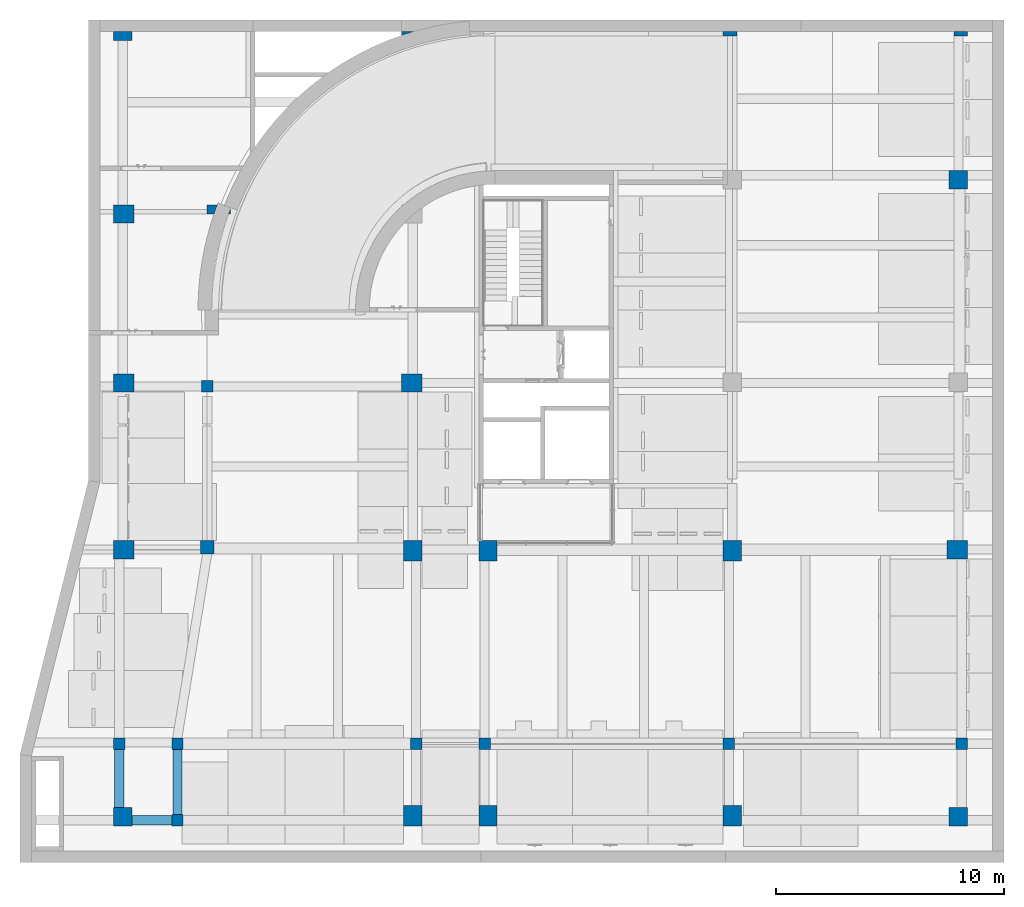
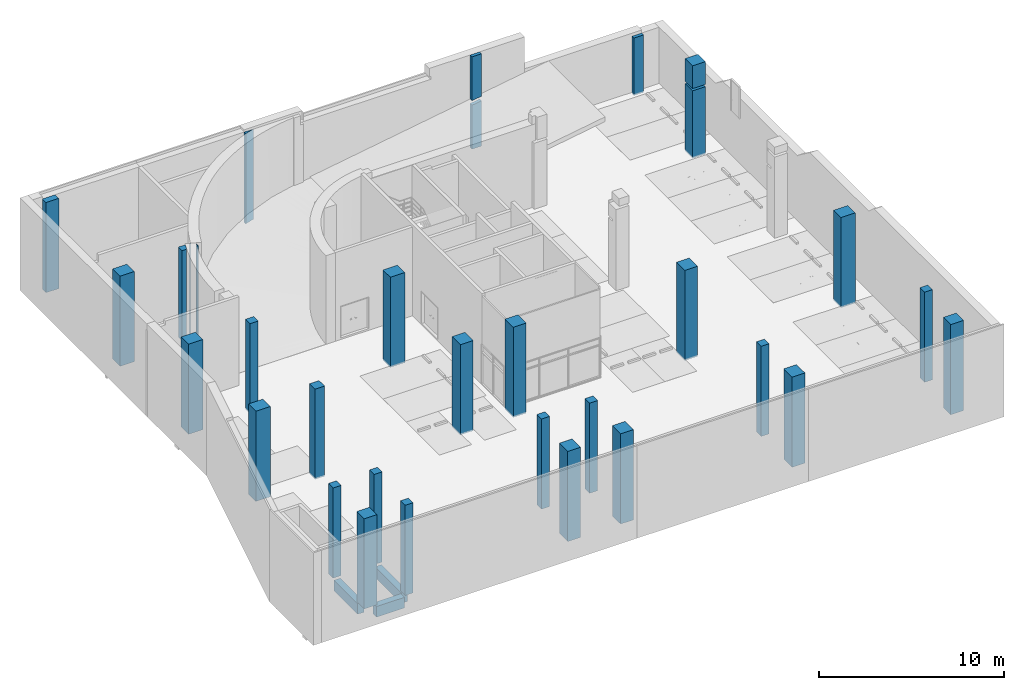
# One storey, part 1 of 29: 28 columns, 3 beams.
"""IFC2X3 building model written with IfcOpenShell, lengths in millimetres."""

from ifc_helpers import new_model, entity, si_unit, converted_unit, derived_unit, direction, frame, frame_2d, origin, origin_2d_with_axis, place, context, subcontext, project, spatial, polyline, circle_curve, parameter, trimmed, segment, composite_curve, rectangle, outline, extrude, faceted_brep, source, transform, mapped, material, material_list, type_object, type_shapes, element, save


model = new_model("IFC2X3")

# Units and contexts
model_context = context("Model", 3, precision=0.01, world=origin(), true_north=direction((6.123031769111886e-17, 1.0)))
body_context = subcontext(model_context, "Body", "Model", "MODEL_VIEW")
ifc_project = project(units=[si_unit("LENGTHUNIT", "METRE", prefix="MILLI"), si_unit("AREAUNIT", "SQUARE_METRE"), si_unit("VOLUMEUNIT", "CUBIC_METRE"), converted_unit("PLANEANGLEUNIT", "DEGREE", entity("IfcRatioMeasure", 0.017453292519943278), si_unit("PLANEANGLEUNIT", "RADIAN"), dimensions=[0, 0, 0, 0, 0, 0, 0]), si_unit("MASSUNIT", "GRAM", prefix="KILO"), derived_unit("MASSDENSITYUNIT", [(si_unit("MASSUNIT", "GRAM", prefix="KILO"), 1), (si_unit("LENGTHUNIT", "METRE"), -3)]), derived_unit("MOMENTOFINERTIAUNIT", [(si_unit("LENGTHUNIT", "METRE"), 4)]), si_unit("TIMEUNIT", "SECOND"), si_unit("FREQUENCYUNIT", "HERTZ"), si_unit("THERMODYNAMICTEMPERATUREUNIT", "DEGREE_CELSIUS"), derived_unit("THERMALTRANSMITTANCEUNIT", [(si_unit("MASSUNIT", "GRAM", prefix="KILO"), 1), (si_unit("THERMODYNAMICTEMPERATUREUNIT", "KELVIN"), -1), (si_unit("TIMEUNIT", "SECOND"), -3)]), derived_unit("VOLUMETRICFLOWRATEUNIT", [(si_unit("LENGTHUNIT", "METRE"), 3), (si_unit("TIMEUNIT", "SECOND"), -1)]), derived_unit("MASSFLOWRATEUNIT", [(si_unit("MASSUNIT", "GRAM", prefix="KILO"), 1), (si_unit("TIMEUNIT", "SECOND"), -1)]), derived_unit("ROTATIONALFREQUENCYUNIT", [(si_unit("TIMEUNIT", "SECOND"), -1)]), si_unit("ELECTRICCURRENTUNIT", "AMPERE"), si_unit("ELECTRICVOLTAGEUNIT", "VOLT"), si_unit("POWERUNIT", "WATT"), si_unit("FORCEUNIT", "NEWTON", prefix="KILO"), si_unit("ILLUMINANCEUNIT", "LUX"), si_unit("LUMINOUSFLUXUNIT", "LUMEN"), si_unit("LUMINOUSINTENSITYUNIT", "CANDELA"), derived_unit("USERDEFINED", [(si_unit("MASSUNIT", "GRAM", prefix="KILO"), -1), (si_unit("LENGTHUNIT", "METRE"), -2), (si_unit("TIMEUNIT", "SECOND"), 3), (si_unit("LUMINOUSFLUXUNIT", "LUMEN"), 1)]), derived_unit("SOUNDPOWERUNIT", [(si_unit("MASSUNIT", "GRAM", prefix="KILO"), 1), (si_unit("LENGTHUNIT", "METRE"), 2), (si_unit("TIMEUNIT", "SECOND"), -3)]), derived_unit("SOUNDPRESSUREUNIT", [(si_unit("MASSUNIT", "GRAM", prefix="KILO"), 1), (si_unit("LENGTHUNIT", "METRE"), -1), (si_unit("TIMEUNIT", "SECOND"), -2)]), derived_unit("LINEARVELOCITYUNIT", [(si_unit("LENGTHUNIT", "METRE"), 1), (si_unit("TIMEUNIT", "SECOND"), -1)]), si_unit("PRESSUREUNIT", "PASCAL"), derived_unit("USERDEFINED", [(si_unit("LENGTHUNIT", "METRE"), -2), (si_unit("MASSUNIT", "GRAM", prefix="KILO"), 1), (si_unit("TIMEUNIT", "SECOND"), -2)]), derived_unit("LINEARFORCEUNIT", [(si_unit("MASSUNIT", "GRAM", prefix="KILO"), 1), (si_unit("LENGTHUNIT", "METRE"), 1), (si_unit("TIMEUNIT", "SECOND"), -2), (si_unit("LENGTHUNIT", "METRE"), -1)]), derived_unit("PLANARFORCEUNIT", [(si_unit("MASSUNIT", "GRAM", prefix="KILO"), 1), (si_unit("LENGTHUNIT", "METRE"), 1), (si_unit("TIMEUNIT", "SECOND"), -2), (si_unit("LENGTHUNIT", "METRE"), -2)])], contexts=[model_context])

# Site, building, storey
site_placement = place(None, frame((-14167.972527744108, -657.2125860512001, 0.0)))
site = spatial("IfcSite", under=ifc_project, at=site_placement, Name="Default", CompositionType="ELEMENT")
building_placement = place(site_placement, origin())
building = spatial("IfcBuilding", under=site, at=building_placement, Name="Sample Building", CompositionType="ELEMENT")
storey_placement = place(building_placement, frame((0.0, 0.0, -6100.0)))
storey = spatial("IfcBuildingStorey", under=building, at=storey_placement, Name="지하1층", CompositionType="ELEMENT", Elevation=-6099.999999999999)

# Columns
ifc_material = material(Name="KBIMS-콘크리트")
column_type_1 = type_object("IfcColumnType", Name="CL111-철근콘크리트구조 기둥 (각형)1:CL111-철근콘크리트구조 기둥 (각형)_800x800_B2-7C3", PredefinedType="COLUMN", material=ifc_material)
shared_shape_1 = source(origin(), body_context, "Body", "SweptSolid", [
    extrude(rectangle(XDim=799.9999999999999, YDim=800.0, at=frame_2d((-5.684341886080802e-14, 0.0), x_axis=(1.0, 0.0))), frame((14467.955105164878, 957.2121951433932, -6100.0), z_axis=(0.0, 0.0, 1.0), x_axis=(0.0, -1.0, 0.0)), (0.0, 0.0, 1.0), 5949.999999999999),
])
type_shapes(column_type_1, [shared_shape_1])
column_1_placement = place(storey_placement, frame((0.0, 0.0, 6100.0)))
element("IfcColumn", 1, at=column_1_placement, inside=storey, type_object=column_type_1, material=ifc_material, Name="CL111-철근콘크리트구조 기둥 (각형)1:CL111-철근콘크리트구조 기둥 (각형)_800x800_B2-7C3", ObjectType="CL111-철근콘크리트구조 기둥 (각형)1:CL111-철근콘크리트구조 기둥 (각형)_800x800_B2-7C3", context=body_context, shape_type="MappedRepresentation", body=[
    mapped(shared_shape_1, transform((0.0, 0.0, 0.0), scale=1.0)),
])
column_type_2 = type_object("IfcColumnType", Name="CL111-철근콘크리트구조 기둥 (각형)1:CL111-철근콘크리트구조 기둥 (각형)_500x500_B2-B1C11", PredefinedType="COLUMN", material=ifc_material)
shared_shape_2 = source(origin(), body_context, "Body", "SweptSolid", [
    extrude(rectangle(XDim=500.0, YDim=499.999999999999, at=frame_2d((-4.263256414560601e-14, 0.0), x_axis=(1.0, 0.0))), frame((16867.946448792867, 807.2126041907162, -6100.0), z_axis=(0.0, 0.0, 1.0), x_axis=(0.0, -1.0, 0.0)), (0.0, 0.0, 1.0), 5949.999999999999),
])
type_shapes(column_type_2, [shared_shape_2])
column_2_placement = place(storey_placement, frame((0.0, 0.0, 6100.0)))
element("IfcColumn", 2, at=column_2_placement, inside=storey, type_object=column_type_2, material=ifc_material, Name="CL111-철근콘크리트구조 기둥 (각형)1:CL111-철근콘크리트구조 기둥 (각형)_500x500_B2-B1C11", ObjectType="CL111-철근콘크리트구조 기둥 (각형)1:CL111-철근콘크리트구조 기둥 (각형)_500x500_B2-B1C11", context=body_context, shape_type="MappedRepresentation", body=[
    mapped(shared_shape_2, transform((0.0, 0.0, 0.0), scale=1.0)),
])
column_type_3 = type_object("IfcColumnType", Name="CL111-철근콘크리트구조 기둥 (각형)1:CL111-철근콘크리트구조 기둥 (각형)_800x900_B2-1C2", PredefinedType="COLUMN", material=ifc_material)
shared_shape_3 = source(origin(), body_context, "Body", "SweptSolid", [
    extrude(rectangle(XDim=900.0, YDim=800.0, at=frame_2d((-8.526512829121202e-14, 0.0), x_axis=(1.0, 0.0))), frame((27167.955141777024, 1007.2121822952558, -6100.0), z_axis=(0.0, 0.0, 1.0), x_axis=(0.0, -1.0, 0.0)), (0.0, 0.0, 1.0), 5949.999999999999),
])
type_shapes(column_type_3, [shared_shape_3])
column_3_placement = place(storey_placement, frame((0.0, 0.0, 6100.0)))
element("IfcColumn", 3, at=column_3_placement, inside=storey, type_object=column_type_3, material=ifc_material, Name="CL111-철근콘크리트구조 기둥 (각형)1:CL111-철근콘크리트구조 기둥 (각형)_800x900_B2-1C2", ObjectType="CL111-철근콘크리트구조 기둥 (각형)1:CL111-철근콘크리트구조 기둥 (각형)_800x900_B2-1C2", context=body_context, shape_type="MappedRepresentation", body=[
    mapped(shared_shape_3, transform((0.0, 0.0, 0.0), scale=1.0)),
])
column_type_4 = type_object("IfcColumnType", Name="CL111-철근콘크리트구조 기둥 (각형)1:CL111-철근콘크리트구조 기둥 (각형)_800x900_B2-1C2", PredefinedType="COLUMN", material=ifc_material)
shared_shape_4 = source(origin(), body_context, "Body", "SweptSolid", [
    extrude(rectangle(XDim=900.0, YDim=800.0, at=frame_2d((-8.526512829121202e-14, 0.0), x_axis=(1.0, 0.0))), frame((30467.955141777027, 1007.2121951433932, -6100.0), z_axis=(0.0, 0.0, 1.0), x_axis=(0.0, -1.0, 0.0)), (0.0, 0.0, 1.0), 5949.999999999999),
])
type_shapes(column_type_4, [shared_shape_4])
column_4_placement = place(storey_placement, frame((0.0, 0.0, 6100.0)))
element("IfcColumn", 4, at=column_4_placement, inside=storey, type_object=column_type_4, material=ifc_material, Name="CL111-철근콘크리트구조 기둥 (각형)1:CL111-철근콘크리트구조 기둥 (각형)_800x900_B2-1C2", ObjectType="CL111-철근콘크리트구조 기둥 (각형)1:CL111-철근콘크리트구조 기둥 (각형)_800x900_B2-1C2", context=body_context, shape_type="MappedRepresentation", body=[
    mapped(shared_shape_4, transform((0.0, 0.0, 0.0), scale=1.0)),
])
column_type_5 = type_object("IfcColumnType", Name="CL111-철근콘크리트구조 기둥 (각형)1:CL111-철근콘크리트구조 기둥 (각형)_800x900_B2-1C2", PredefinedType="COLUMN", material=ifc_material)
shared_shape_5 = source(origin(), body_context, "Body", "SweptSolid", [
    extrude(rectangle(XDim=900.0, YDim=800.0, at=frame_2d((0.0, -4.348521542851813e-12), x_axis=(1.0, 0.0))), frame((41167.955141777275, 1007.2121951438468, -6100.0), z_axis=(0.0, 0.0, 1.0), x_axis=(0.0, -1.0, 0.0)), (0.0, 0.0, 1.0), 5949.999999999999),
])
type_shapes(column_type_5, [shared_shape_5])
column_5_placement = place(storey_placement, frame((0.0, 0.0, 6100.0)))
element("IfcColumn", 5, at=column_5_placement, inside=storey, type_object=column_type_5, material=ifc_material, Name="CL111-철근콘크리트구조 기둥 (각형)1:CL111-철근콘크리트구조 기둥 (각형)_800x900_B2-1C2", ObjectType="CL111-철근콘크리트구조 기둥 (각형)1:CL111-철근콘크리트구조 기둥 (각형)_800x900_B2-1C2", context=body_context, shape_type="MappedRepresentation", body=[
    mapped(shared_shape_5, transform((0.0, 0.0, 0.0), scale=1.0)),
])
column_type_6 = type_object("IfcColumnType", Name="CL111-철근콘크리트구조 기둥 (각형)1:CL111-철근콘크리트구조 기둥 (각형)_800x800_B2-7C3", PredefinedType="COLUMN", material=ifc_material)
shared_shape_6 = source(origin(), body_context, "Body", "SweptSolid", [
    extrude(rectangle(XDim=799.9999999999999, YDim=800.0, at=frame_2d((0.0, -4.348521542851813e-12), x_axis=(1.0, 0.0))), frame((51067.96383810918, 957.2126170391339, -6100.0), z_axis=(0.0, 0.0, 1.0), x_axis=(0.0, -1.0, 0.0)), (0.0, 0.0, 1.0), 5949.999999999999),
])
type_shapes(column_type_6, [shared_shape_6])
column_6_placement = place(storey_placement, frame((0.0, 0.0, 6100.0)))
element("IfcColumn", 6, at=column_6_placement, inside=storey, type_object=column_type_6, material=ifc_material, Name="CL111-철근콘크리트구조 기둥 (각형)1:CL111-철근콘크리트구조 기둥 (각형)_800x800_B2-7C3", ObjectType="CL111-철근콘크리트구조 기둥 (각형)1:CL111-철근콘크리트구조 기둥 (각형)_800x800_B2-7C3", context=body_context, shape_type="MappedRepresentation", body=[
    mapped(shared_shape_6, transform((0.0, 0.0, 0.0), scale=1.0)),
])
column_type_7 = type_object("IfcColumnType", Name="CL111-철근콘크리트구조 기둥 (각형)1:CL111-철근콘크리트구조 기둥 (각형)_500x500_B2-B1C11", PredefinedType="COLUMN", material=ifc_material)
shared_shape_7 = source(origin(), body_context, "Body", "SweptSolid", [
    extrude(rectangle(XDim=500.00000000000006, YDim=499.999999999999, at=origin_2d_with_axis()), frame((14317.955105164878, 4157.212692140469, -6100.0), z_axis=(0.0, 0.0, 1.0), x_axis=(0.0, -1.0, 0.0)), (0.0, 0.0, 1.0), 5949.999999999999),
])
type_shapes(column_type_7, [shared_shape_7])
column_7_placement = place(storey_placement, frame((0.0, 0.0, 6100.0)))
element("IfcColumn", 7, at=column_7_placement, inside=storey, type_object=column_type_7, material=ifc_material, Name="CL111-철근콘크리트구조 기둥 (각형)1:CL111-철근콘크리트구조 기둥 (각형)_500x500_B2-B1C11", ObjectType="CL111-철근콘크리트구조 기둥 (각형)1:CL111-철근콘크리트구조 기둥 (각형)_500x500_B2-B1C11", context=body_context, shape_type="MappedRepresentation", body=[
    mapped(shared_shape_7, transform((0.0, 0.0, 0.0), scale=1.0)),
])
column_type_8 = type_object("IfcColumnType", Name="CL111-철근콘크리트구조 기둥 (각형)1:CL111-철근콘크리트구조 기둥 (각형)_500x500_B2-B1C11", PredefinedType="COLUMN", material=ifc_material)
shared_shape_8 = source(origin(), body_context, "Body", "SweptSolid", [
    extrude(rectangle(XDim=500.00000000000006, YDim=499.999999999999, at=origin_2d_with_axis()), frame((16867.946448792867, 4157.212692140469, -6100.0), z_axis=(0.0, 0.0, 1.0), x_axis=(0.0, -1.0, 0.0)), (0.0, 0.0, 1.0), 5949.999999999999),
])
type_shapes(column_type_8, [shared_shape_8])
column_8_placement = place(storey_placement, frame((0.0, 0.0, 6100.0)))
element("IfcColumn", 8, at=column_8_placement, inside=storey, type_object=column_type_8, material=ifc_material, Name="CL111-철근콘크리트구조 기둥 (각형)1:CL111-철근콘크리트구조 기둥 (각형)_500x500_B2-B1C11", ObjectType="CL111-철근콘크리트구조 기둥 (각형)1:CL111-철근콘크리트구조 기둥 (각형)_500x500_B2-B1C11", context=body_context, shape_type="MappedRepresentation", body=[
    mapped(shared_shape_8, transform((0.0, 0.0, 0.0), scale=1.0)),
])
column_type_9 = type_object("IfcColumnType", Name="CL111-철근콘크리트구조 기둥 (각형)1:CL111-철근콘크리트구조 기둥 (각형)_500x500_B2-B1C11", PredefinedType="COLUMN", material=ifc_material)
shared_shape_9 = source(origin(), body_context, "Body", "SweptSolid", [
    extrude(rectangle(XDim=500.00000000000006, YDim=499.999999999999, at=origin_2d_with_axis()), frame((30317.95511434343, 4157.2126921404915, -6100.0), z_axis=(0.0, 0.0, 1.0), x_axis=(0.0, -1.0, 0.0)), (0.0, 0.0, 1.0), 5949.999999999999),
])
type_shapes(column_type_9, [shared_shape_9])
column_9_placement = place(storey_placement, frame((0.0, 0.0, 6100.0)))
element("IfcColumn", 9, at=column_9_placement, inside=storey, type_object=column_type_9, material=ifc_material, Name="CL111-철근콘크리트구조 기둥 (각형)1:CL111-철근콘크리트구조 기둥 (각형)_500x500_B2-B1C11", ObjectType="CL111-철근콘크리트구조 기둥 (각형)1:CL111-철근콘크리트구조 기둥 (각형)_500x500_B2-B1C11", context=body_context, shape_type="MappedRepresentation", body=[
    mapped(shared_shape_9, transform((0.0, 0.0, 0.0), scale=1.0)),
])
column_type_10 = type_object("IfcColumnType", Name="CL111-철근콘크리트구조 기둥 (각형)1:CL111-철근콘크리트구조 기둥 (각형)_500x500_B2-B1C11", PredefinedType="COLUMN", material=ifc_material)
shared_shape_10 = source(origin(), body_context, "Body", "SweptSolid", [
    extrude(rectangle(XDim=500.00000000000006, YDim=499.999999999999, at=origin_2d_with_axis()), frame((51217.96383810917, 4157.2126921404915, -6100.0), z_axis=(0.0, 0.0, 1.0), x_axis=(0.0, -1.0, 0.0)), (0.0, 0.0, 1.0), 5949.999999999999),
])
type_shapes(column_type_10, [shared_shape_10])
column_10_placement = place(storey_placement, frame((0.0, 0.0, 6100.0)))
element("IfcColumn", 10, at=column_10_placement, inside=storey, type_object=column_type_10, material=ifc_material, Name="CL111-철근콘크리트구조 기둥 (각형)1:CL111-철근콘크리트구조 기둥 (각형)_500x500_B2-B1C11", ObjectType="CL111-철근콘크리트구조 기둥 (각형)1:CL111-철근콘크리트구조 기둥 (각형)_500x500_B2-B1C11", context=body_context, shape_type="MappedRepresentation", body=[
    mapped(shared_shape_10, transform((0.0, 0.0, 0.0), scale=1.0)),
])
column_type_11 = type_object("IfcColumnType", Name="CL111-철근콘크리트구조 기둥 (각형)1:CL111-철근콘크리트구조 기둥 (각형)_800x900_B2-1C2", PredefinedType="COLUMN", material=ifc_material)
shared_shape_11 = source(origin(), body_context, "Body", "SweptSolid", [
    extrude(rectangle(XDim=800.0000000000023, YDim=900.0000000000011, at=frame_2d((0.0, 2.1600499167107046e-12), x_axis=(1.0, 0.0))), frame((14517.955105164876, 12657.21261703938, -6100.0), z_axis=(0.0, 0.0, 1.0), x_axis=(0.0, -1.0, 0.0)), (0.0, 0.0, 1.0), 5949.999999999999),
])
type_shapes(column_type_11, [shared_shape_11])
column_11_placement = place(storey_placement, frame((0.0, 0.0, 6100.0)))
element("IfcColumn", 11, at=column_11_placement, inside=storey, type_object=column_type_11, material=ifc_material, Name="CL111-철근콘크리트구조 기둥 (각형)1:CL111-철근콘크리트구조 기둥 (각형)_800x900_B2-1C2", ObjectType="CL111-철근콘크리트구조 기둥 (각형)1:CL111-철근콘크리트구조 기둥 (각형)_800x900_B2-1C2", context=body_context, shape_type="MappedRepresentation", body=[
    mapped(shared_shape_11, transform((0.0, 0.0, 0.0), scale=1.0)),
])
column_type_12 = type_object("IfcColumnType", Name="CL111-철근콘크리트구조 기둥 (각형)1:CL111-철근콘크리트구조 기둥 (각형)_800x900_B2-1C2", PredefinedType="COLUMN", material=ifc_material)
shared_shape_12 = source(origin(), body_context, "Body", "SweptSolid", [
    extrude(rectangle(XDim=899.999999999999, YDim=800.0, at=origin_2d_with_axis()), frame((27167.955141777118, 12607.212617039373, -6100.0), z_axis=(0.0, 0.0, 1.0), x_axis=(0.0, -1.0, 0.0)), (0.0, 0.0, 1.0), 5949.999999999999),
])
type_shapes(column_type_12, [shared_shape_12])
column_12_placement = place(storey_placement, frame((0.0, 0.0, 6100.0)))
element("IfcColumn", 12, at=column_12_placement, inside=storey, type_object=column_type_12, material=ifc_material, Name="CL111-철근콘크리트구조 기둥 (각형)1:CL111-철근콘크리트구조 기둥 (각형)_800x900_B2-1C2", ObjectType="CL111-철근콘크리트구조 기둥 (각형)1:CL111-철근콘크리트구조 기둥 (각형)_800x900_B2-1C2", context=body_context, shape_type="MappedRepresentation", body=[
    mapped(shared_shape_12, transform((0.0, 0.0, 0.0), scale=1.0)),
])
column_type_13 = type_object("IfcColumnType", Name="CL111-철근콘크리트구조 기둥 (각형)1:CL111-철근콘크리트구조 기둥 (각형)_800x900_B2-1C2", PredefinedType="COLUMN", material=ifc_material)
shared_shape_13 = source(origin(), body_context, "Body", "SweptSolid", [
    extrude(rectangle(XDim=899.999999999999, YDim=800.0, at=origin_2d_with_axis()), frame((30467.95511434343, 12607.212617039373, -6100.0), z_axis=(0.0, 0.0, 1.0), x_axis=(0.0, -1.0, 0.0)), (0.0, 0.0, 1.0), 5949.999999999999),
])
type_shapes(column_type_13, [shared_shape_13])
column_13_placement = place(storey_placement, frame((0.0, 0.0, 6100.0)))
element("IfcColumn", 13, at=column_13_placement, inside=storey, type_object=column_type_13, material=ifc_material, Name="CL111-철근콘크리트구조 기둥 (각형)1:CL111-철근콘크리트구조 기둥 (각형)_800x900_B2-1C2", ObjectType="CL111-철근콘크리트구조 기둥 (각형)1:CL111-철근콘크리트구조 기둥 (각형)_800x900_B2-1C2", context=body_context, shape_type="MappedRepresentation", body=[
    mapped(shared_shape_13, transform((0.0, 0.0, 0.0), scale=1.0)),
])
column_type_14 = type_object("IfcColumnType", Name="CL111-철근콘크리트구조 기둥 (각형)1:CL111-철근콘크리트구조 기둥 (각형)_800x900_B2-1C2", PredefinedType="COLUMN", material=ifc_material)
shared_shape_14 = source(origin(), body_context, "Body", "SweptSolid", [
    extrude(rectangle(XDim=899.999999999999, YDim=800.0, at=frame_2d((0.0, -4.348521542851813e-12), x_axis=(1.0, 0.0))), frame((41167.955141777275, 12607.212617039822, -6100.0), z_axis=(0.0, 0.0, 1.0), x_axis=(0.0, -1.0, 0.0)), (0.0, 0.0, 1.0), 5949.999999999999),
])
type_shapes(column_type_14, [shared_shape_14])
column_14_placement = place(storey_placement, frame((0.0, 0.0, 6100.0)))
element("IfcColumn", 14, at=column_14_placement, inside=storey, type_object=column_type_14, material=ifc_material, Name="CL111-철근콘크리트구조 기둥 (각형)1:CL111-철근콘크리트구조 기둥 (각형)_800x900_B2-1C2", ObjectType="CL111-철근콘크리트구조 기둥 (각형)1:CL111-철근콘크리트구조 기둥 (각형)_800x900_B2-1C2", context=body_context, shape_type="MappedRepresentation", body=[
    mapped(shared_shape_14, transform((0.0, 0.0, 0.0), scale=1.0)),
])
column_type_15 = type_object("IfcColumnType", Name="CL111-철근콘크리트구조 기둥 (각형)1:CL111-철근콘크리트구조 기둥 (각형)_800x900_B2-1C2", PredefinedType="COLUMN", material=ifc_material)
shared_shape_15 = source(origin(), body_context, "Body", "SweptSolid", [
    extrude(rectangle(XDim=800.0000000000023, YDim=900.0000000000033, at=origin_2d_with_axis()), frame((51017.95513594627, 12657.213038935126, -6100.0), z_axis=(0.0, 0.0, 1.0), x_axis=(0.0, -1.0, 0.0)), (0.0, 0.0, 1.0), 5949.999999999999),
])
type_shapes(column_type_15, [shared_shape_15])
column_15_placement = place(storey_placement, frame((0.0, 0.0, 6100.0)))
element("IfcColumn", 15, at=column_15_placement, inside=storey, type_object=column_type_15, material=ifc_material, Name="CL111-철근콘크리트구조 기둥 (각형)1:CL111-철근콘크리트구조 기둥 (각형)_800x900_B2-1C2", ObjectType="CL111-철근콘크리트구조 기둥 (각형)1:CL111-철근콘크리트구조 기둥 (각형)_800x900_B2-1C2", context=body_context, shape_type="MappedRepresentation", body=[
    mapped(shared_shape_15, transform((0.0, 0.0, 0.0), scale=1.0)),
])
column_type_16 = type_object("IfcColumnType", Name="CL111-철근콘크리트구조 기둥 (각형)1:CL111-철근콘크리트구조 기둥 (각형)_800x900_B2-1C2", PredefinedType="COLUMN", material=ifc_material)
shared_shape_16 = source(origin(), body_context, "Body", "SweptSolid", [
    extrude(rectangle(XDim=800.0, YDim=900.0000000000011, at=origin_2d_with_axis()), frame((14517.955105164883, 19957.21261703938, -6100.0), z_axis=(0.0, 0.0, 1.0), x_axis=(0.0, -1.0, 0.0)), (0.0, 0.0, 1.0), 5949.999999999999),
])
type_shapes(column_type_16, [shared_shape_16])
column_16_placement = place(storey_placement, frame((0.0, 0.0, 6100.0)))
element("IfcColumn", 16, at=column_16_placement, inside=storey, type_object=column_type_16, material=ifc_material, Name="CL111-철근콘크리트구조 기둥 (각형)1:CL111-철근콘크리트구조 기둥 (각형)_800x900_B2-1C2", ObjectType="CL111-철근콘크리트구조 기둥 (각형)1:CL111-철근콘크리트구조 기둥 (각형)_800x900_B2-1C2", context=body_context, shape_type="MappedRepresentation", body=[
    mapped(shared_shape_16, transform((0.0, 0.0, 0.0), scale=1.0)),
])
column_type_17 = type_object("IfcColumnType", Name="CL111-철근콘크리트구조 기둥 (각형)1:CL111-철근콘크리트구조 기둥 (각형)_500x500_B2-B1C11", PredefinedType="COLUMN", material=ifc_material)
shared_shape_17 = source(origin(), body_context, "Body", "SweptSolid", [
    extrude(rectangle(XDim=499.999999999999, YDim=499.999999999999, at=origin_2d_with_axis()), frame((18167.946448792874, 19807.21261703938, -6100.0), z_axis=(0.0, 0.0, 1.0), x_axis=(0.0, -1.0, 0.0)), (0.0, 0.0, 1.0), 5949.999999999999),
])
type_shapes(column_type_17, [shared_shape_17])
column_17_placement = place(storey_placement, frame((0.0, 0.0, 6100.0)))
element("IfcColumn", 17, at=column_17_placement, inside=storey, type_object=column_type_17, material=ifc_material, Name="CL111-철근콘크리트구조 기둥 (각형)1:CL111-철근콘크리트구조 기둥 (각형)_500x500_B2-B1C11", ObjectType="CL111-철근콘크리트구조 기둥 (각형)1:CL111-철근콘크리트구조 기둥 (각형)_500x500_B2-B1C11", context=body_context, shape_type="MappedRepresentation", body=[
    mapped(shared_shape_17, transform((0.0, 0.0, 0.0), scale=1.0)),
])
column_type_18 = type_object("IfcColumnType", Name="CL111-철근콘크리트구조 기둥 (각형)1:CL111-철근콘크리트구조 기둥 (각형)_800x900_B2-1C2", PredefinedType="COLUMN", material=ifc_material)
shared_shape_18 = source(origin(), body_context, "Body", "SweptSolid", [
    extrude(rectangle(XDim=800.0, YDim=899.999999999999, at=origin_2d_with_axis()), frame((27117.95514177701, 19957.212617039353, -6100.0), z_axis=(0.0, 0.0, 1.0), x_axis=(0.0, -1.0, 0.0)), (0.0, 0.0, 1.0), 5949.999999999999),
])
type_shapes(column_type_18, [shared_shape_18])
column_18_placement = place(storey_placement, frame((0.0, 0.0, 6100.0)))
element("IfcColumn", 18, at=column_18_placement, inside=storey, type_object=column_type_18, material=ifc_material, Name="CL111-철근콘크리트구조 기둥 (각형)1:CL111-철근콘크리트구조 기둥 (각형)_800x900_B2-1C2", ObjectType="CL111-철근콘크리트구조 기둥 (각형)1:CL111-철근콘크리트구조 기둥 (각형)_800x900_B2-1C2", context=body_context, shape_type="MappedRepresentation", body=[
    mapped(shared_shape_18, transform((0.0, 0.0, 0.0), scale=1.0)),
])
column_type_19 = type_object("IfcColumnType", Name="CL111-철근콘크리트구조 기둥 (각형)1:CL111-철근콘크리트구조 기둥 (각형)_800x900_B2-1C2", PredefinedType="COLUMN", material=ifc_material)
shared_shape_19 = source(origin(), body_context, "Body", "SweptSolid", [
    extrude(rectangle(XDim=800.0, YDim=900.0000000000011, at=origin_2d_with_axis()), frame((14517.955086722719, 27357.212617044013, -6100.0), z_axis=(0.0, 0.0, 1.0), x_axis=(0.0, -1.0, 0.0)), (0.0, 0.0, 1.0), 5949.999999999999),
])
type_shapes(column_type_19, [shared_shape_19])
column_19_placement = place(storey_placement, frame((0.0, 0.0, 6100.0)))
element("IfcColumn", 19, at=column_19_placement, inside=storey, type_object=column_type_19, material=ifc_material, Name="CL111-철근콘크리트구조 기둥 (각형)1:CL111-철근콘크리트구조 기둥 (각형)_800x900_B2-1C2", ObjectType="CL111-철근콘크리트구조 기둥 (각형)1:CL111-철근콘크리트구조 기둥 (각형)_800x900_B2-1C2", context=body_context, shape_type="MappedRepresentation", body=[
    mapped(shared_shape_19, transform((0.0, 0.0, 0.0), scale=1.0)),
])
column_type_20 = type_object("IfcColumnType", Name="CL111-철근콘크리트구조 기둥 (각형)1:CL111-철근콘크리트구조 기둥 (각형)_1020x400_B2-B1C13", PredefinedType="COLUMN", material=ifc_material)
shared_shape_20 = source(origin(), body_context, "Body", "SweptSolid", [
    extrude(outline(composite_curve([segment(polyline([(-200.0, -184.5649462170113), (200.0, -184.5649462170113)]), True, "CONTINUOUS"), segment(polyline([(200.0, -184.5649462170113), (200.0, 112.61600224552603)]), True, "CONTINUOUS"), segment(trimmed(circle_curve(frame_2d((4400.000309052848, 12415.461096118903), x_axis=(-0.32307694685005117, -0.9463726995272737)), 12999.999999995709), [parameter(358.12636219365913)], [parameter(0.0)], True, "PARAMETER"), False, "CONTINUOUS"), segment(polyline([(-200.0, 256.5138901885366), (-200.0, -184.5649462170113)]), True, "CONTINUOUS")], self_intersect=False)), frame((18352.511395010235, 27557.212617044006, -6100.0), z_axis=(0.0, 0.0, 1.0), x_axis=(0.0, -1.0, 0.0)), (0.0, 0.0, 1.0), 5950.000000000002),
    extrude(outline(composite_curve([segment(polyline([(-58.01430615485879, -78.09915912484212), (29.007153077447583, -78.09915912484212)]), True, "CONTINUOUS"), segment(polyline([(29.007153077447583, -78.09915912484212), (29.007153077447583, 156.19831824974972)]), True, "CONTINUOUS"), segment(trimmed(circle_curve(frame_2d((11609.03319547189, -4278.099468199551), x_axis=(-0.9338730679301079, 0.35760466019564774)), 12400.00000005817), [parameter(0.0)], [parameter(1.154881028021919)], True, "PARAMETER"), True, "CONTINUOUS")], self_intersect=False)), frame((19158.939295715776, 27435.311776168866, -6100.0)), (0.0, 0.0, 1.0), 5950.000000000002),
    extrude(outline(composite_curve([segment(polyline([(-20.028598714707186, -5.960181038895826), (33.12452039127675, -5.960181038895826)]), True, "CONTINUOUS"), segment(polyline([(33.12452039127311, -5.960181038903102), (-13.095921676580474, 11.920362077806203)]), True, "CONTINUOUS"), segment(trimmed(circle_curve(frame_2d((-11857.680264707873, 4594.040124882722), x_axis=(0.9326444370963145, -0.36079683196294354)), 12699.99999133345), [parameter(359.91348118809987)], [parameter(0.0)], True, "PARAMETER"), False, "CONTINUOUS")], self_intersect=False)), frame((18910.29221834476, 27751.25243600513, -6100.0), z_axis=(0.0, 0.0, 1.0), x_axis=(-1.0, 0.0, 0.0)), (0.0, 0.0, 1.0), 5950.000000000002),
])
type_shapes(column_type_20, [shared_shape_20])
column_20_placement = place(storey_placement, frame((0.0, 0.0, 6100.0)))
element("IfcColumn", 20, at=column_20_placement, inside=storey, type_object=column_type_20, material=ifc_material, Name="CL111-철근콘크리트구조 기둥 (각형)1:CL111-철근콘크리트구조 기둥 (각형)_1020x400_B2-B1C13", ObjectType="CL111-철근콘크리트구조 기둥 (각형)1:CL111-철근콘크리트구조 기둥 (각형)_1020x400_B2-B1C13", context=body_context, shape_type="MappedRepresentation", body=[
    mapped(shared_shape_20, transform((0.0, 0.0, 0.0), scale=1.0)),
])
column_type_21 = type_object("IfcColumnType", Name="CL111-철근콘크리트구조 기둥 (각형)1:CL111-철근콘크리트구조 기둥 (각형)_800x800_B2-4C1", PredefinedType="COLUMN", material=ifc_material)
shared_shape_21 = source(origin(), body_context, "Body", "SweptSolid", [
    extrude(rectangle(XDim=800.0, YDim=800.0, at=frame_2d((0.0, -4.348521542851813e-12), x_axis=(1.0, 0.0))), frame((51067.963865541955, 28857.212704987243, -6100.0), z_axis=(0.0, 0.0, 1.0), x_axis=(0.0, -1.0, 0.0)), (0.0, 0.0, 1.0), 4450.0),
    extrude(rectangle(XDim=800.0, YDim=800.0, at=frame_2d((0.0, -4.348521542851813e-12), x_axis=(1.0, 0.0))), frame((51067.963865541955, 28857.212704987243, -1500.0), z_axis=(0.0, 0.0, 1.0), x_axis=(0.0, -1.0, 0.0)), (0.0, 0.0, 1.0), 1500.0),
])
type_shapes(column_type_21, [shared_shape_21])
column_21_placement = place(storey_placement, frame((0.0, 0.0, 6100.0)))
element("IfcColumn", 21, at=column_21_placement, inside=storey, type_object=column_type_21, material=ifc_material, Name="CL111-철근콘크리트구조 기둥 (각형)1:CL111-철근콘크리트구조 기둥 (각형)_800x800_B2-4C1", ObjectType="CL111-철근콘크리트구조 기둥 (각형)1:CL111-철근콘크리트구조 기둥 (각형)_800x800_B2-4C1", context=body_context, shape_type="MappedRepresentation", body=[
    mapped(shared_shape_21, transform((0.0, 0.0, 0.0), scale=1.0)),
])
column_type_22 = type_object("IfcColumnType", Name="CL111-철근콘크리트구조 기둥 (각형)1:CL111-철근콘크리트구조 기둥 (각형)_800x800_B2-7C3", PredefinedType="COLUMN", material=ifc_material)
shared_shape_22 = source(origin(), body_context, "Body", "SweptSolid", [
    extrude(rectangle(XDim=399.99971838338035, YDim=800.0, at=frame_2d((-2.1742607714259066e-12, 0.0), x_axis=(1.0, 0.0))), frame((14467.955105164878, 35157.21244879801, -6100.0), z_axis=(0.0, 0.0, 1.0), x_axis=(0.0, -1.0, 0.0)), (0.0, 0.0, 1.0), 5949.999999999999),
])
type_shapes(column_type_22, [shared_shape_22])
column_22_placement = place(storey_placement, frame((0.0, 0.0, 6100.0)))
element("IfcColumn", 22, at=column_22_placement, inside=storey, type_object=column_type_22, material=ifc_material, Name="CL111-철근콘크리트구조 기둥 (각형)1:CL111-철근콘크리트구조 기둥 (각형)_800x800_B2-7C3", ObjectType="CL111-철근콘크리트구조 기둥 (각형)1:CL111-철근콘크리트구조 기둥 (각형)_800x800_B2-7C3", context=body_context, shape_type="MappedRepresentation", body=[
    mapped(shared_shape_22, transform((0.0, 0.0, 0.0), scale=1.0)),
])
column_type_23 = type_object("IfcColumnType", Name="CL111-철근콘크리트구조 기둥 (각형)1:CL111-철근콘크리트구조 기둥 (각형)_800x900_B2-1C2", PredefinedType="COLUMN", material=ifc_material)
shared_shape_23 = source(origin(), body_context, "Body", "SweptSolid", [
    extrude(outline(composite_curve([segment(polyline([(-60.007518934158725, -190.52053216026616), (120.01503786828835, -190.52053216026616)]), True, "CONTINUOUS"), segment(trimmed(circle_curve(frame_2d((12139.992481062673, 3909.496817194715), x_axis=(-0.9464549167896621, -0.32283601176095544)), 12699.999999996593), [parameter(357.29628236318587)], [parameter(0.0)], True, "PARAMETER"), False, "CONTINUOUS"), segment(polyline([(-60.007518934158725, 381.0410643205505), (-60.007518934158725, -190.52053216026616)]), True, "CONTINUOUS")], self_intersect=False)), frame((26858.475673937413, 35297.20478905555, -6100.0), z_axis=(0.0, 0.0, 1.0), x_axis=(0.0, -1.0, 0.0)), (0.0, 0.0, 1.0), 5950.0),
])
type_shapes(column_type_23, [shared_shape_23])
column_23_placement = place(storey_placement, frame((0.0, 0.0, 6100.0)))
element("IfcColumn", 23, at=column_23_placement, inside=storey, type_object=column_type_23, material=ifc_material, Name="CL111-철근콘크리트구조 기둥 (각형)1:CL111-철근콘크리트구조 기둥 (각형)_800x900_B2-1C2", ObjectType="CL111-철근콘크리트구조 기둥 (각형)1:CL111-철근콘크리트구조 기둥 (각형)_800x900_B2-1C2", context=body_context, shape_type="MappedRepresentation", body=[
    mapped(shared_shape_23, transform((0.0, 0.0, 0.0), scale=1.0)),
])
ifc_material_list_1 = material_list([ifc_material, ifc_material])
ifc_material_list_2 = material_list([ifc_material, ifc_material])
column_type_24 = type_object("IfcColumnType", Name="CL111-철근콘크리트구조 기둥 (각형)1:CL111-철근콘크리트구조 기둥 (각형)_600x600_B2-B2C12", PredefinedType="COLUMN", material=ifc_material_list_2)
shared_shape_24 = source(origin(), body_context, "Body", "Brep", [
    faceted_brep([(600.0, 0.0, 0.0), (0.0, 0.0, 0.0), (0.0, 199.99969094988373, 0.0), (400.0338657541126, 199.99969094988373, 0.0), (600.0, 199.99969094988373, 0.0), (0.0, 0.0, 2899.2922041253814), (600.0, 0.0, 2997.3459526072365), (600.0, 199.99969094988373, 2997.3459526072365), (0.0, 199.99969094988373, 2899.2922041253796)], [[[0, 1, 2, 3, 4]], [[5, 6, 7, 8]], [[1, 0, 6, 5]], [[0, 4, 7, 6]], [[2, 1, 5, 8]], [[3, 2, 8, 7, 4]]]),
    faceted_brep([(600.0, 0.0, 3297.3459526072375), (600.0, 199.99969094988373, 3297.3459526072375), (600.0, 199.99969094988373, 6100.0), (600.0, 0.0, 6100.0), (0.0, 0.0, 3199.2922041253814), (0.0, 0.0, 6100.0), (0.0, 199.99969094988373, 6100.0), (0.0, 199.99969094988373, 3199.29220412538), (400.01734935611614, 199.99969094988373, 6100.0)], [[[0, 1, 2, 3]], [[4, 0, 3, 5]], [[4, 5, 6, 7]], [[1, 0, 4, 7]], [[7, 6, 8, 2, 1]], [[3, 2, 8, 6, 5]]]),
])
type_shapes(column_type_24, [shared_shape_24])
column_24_placement = place(storey_placement, frame((40767.946448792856, 35157.212617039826, 0.0)))
element("IfcColumn", 24, at=column_24_placement, inside=storey, type_object=column_type_24, material=ifc_material_list_1, Name="CL111-철근콘크리트구조 기둥 (각형)1:CL111-철근콘크리트구조 기둥 (각형)_600x600_B2-B2C12", ObjectType="CL111-철근콘크리트구조 기둥 (각형)1:CL111-철근콘크리트구조 기둥 (각형)_600x600_B2-B2C12", context=body_context, shape_type="MappedRepresentation", body=[
    mapped(shared_shape_24, transform((0.0, 0.0, 0.0), scale=1.0)),
])
column_type_25 = type_object("IfcColumnType", Name="CL111-철근콘크리트구조 기둥 (각형)1:CL111-철근콘크리트구조 기둥 (각형)_600x600_B2-B2C12", PredefinedType="COLUMN", material=ifc_material)
shared_shape_25 = source(origin(), body_context, "Body", "SweptSolid", [
    extrude(rectangle(XDim=199.99969094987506, YDim=600.0000000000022, at=frame_2d((-2.1600499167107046e-12, 0.0), x_axis=(1.0, 0.0))), frame((51167.94644879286, 35257.21246251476, -6100.0), z_axis=(0.0, 0.0, 1.0), x_axis=(0.0, -1.0, 0.0)), (0.0, 0.0, 1.0), 3799.999999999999),
])
type_shapes(column_type_25, [shared_shape_25])
column_25_placement = place(storey_placement, frame((0.0, 0.0, 6100.0)))
element("IfcColumn", 25, at=column_25_placement, inside=storey, type_object=column_type_25, material=ifc_material, Name="CL111-철근콘크리트구조 기둥 (각형)1:CL111-철근콘크리트구조 기둥 (각형)_600x600_B2-B2C12", ObjectType="CL111-철근콘크리트구조 기둥 (각형)1:CL111-철근콘크리트구조 기둥 (각형)_600x600_B2-B2C12", context=body_context, shape_type="MappedRepresentation", body=[
    mapped(shared_shape_25, transform((0.0, 0.0, 0.0), scale=1.0)),
])
column_type_26 = type_object("IfcColumnType", Name="CL111-철근콘크리트구조 기둥 (각형)1:CL111-철근콘크리트구조 기둥 (각형)_600x600_B2-B2C12", PredefinedType="COLUMN", material=ifc_material)
shared_shape_26 = source(origin(), body_context, "Body", "SweptSolid", [
    extrude(rectangle(XDim=600.0, YDim=600.0, at=frame_2d((0.0, 1.0800249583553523e-12), x_axis=(1.0, 0.0))), frame((18167.946448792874, 12757.212564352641, -6100.0), z_axis=(0.0, 0.0, 1.0), x_axis=(0.0, -1.0, 0.0)), (0.0, 0.0, 1.0), 5949.999999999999),
])
type_shapes(column_type_26, [shared_shape_26])
column_26_placement = place(storey_placement, frame((0.0, 0.0, 6100.0)))
element("IfcColumn", 26, at=column_26_placement, inside=storey, type_object=column_type_26, material=ifc_material, Name="CL111-철근콘크리트구조 기둥 (각형)1:CL111-철근콘크리트구조 기둥 (각형)_600x600_B2-B2C12", ObjectType="CL111-철근콘크리트구조 기둥 (각형)1:CL111-철근콘크리트구조 기둥 (각형)_600x600_B2-B2C12", context=body_context, shape_type="MappedRepresentation", body=[
    mapped(shared_shape_26, transform((0.0, 0.0, 0.0), scale=1.0)),
])
column_type_27 = type_object("IfcColumnType", Name="CL111-철근콘크리트구조 기둥 (각형)1:CL111-철근콘크리트구조 기둥 (각형)_500x500_B2-B1C11", PredefinedType="COLUMN", material=ifc_material)
shared_shape_27 = source(origin(), body_context, "Body", "SweptSolid", [
    extrude(rectangle(XDim=500.00000000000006, YDim=499.999999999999, at=origin_2d_with_axis()), frame((41017.955141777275, 4157.2126921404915, -6100.0), z_axis=(0.0, 0.0, 1.0), x_axis=(0.0, -1.0, 0.0)), (0.0, 0.0, 1.0), 5949.999999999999),
])
type_shapes(column_type_27, [shared_shape_27])
column_27_placement = place(storey_placement, frame((0.0, 0.0, 6100.0)))
element("IfcColumn", 27, at=column_27_placement, inside=storey, type_object=column_type_27, material=ifc_material, Name="CL111-철근콘크리트구조 기둥 (각형)1:CL111-철근콘크리트구조 기둥 (각형)_500x500_B2-B1C11", ObjectType="CL111-철근콘크리트구조 기둥 (각형)1:CL111-철근콘크리트구조 기둥 (각형)_500x500_B2-B1C11", context=body_context, shape_type="MappedRepresentation", body=[
    mapped(shared_shape_27, transform((0.0, 0.0, 0.0), scale=1.0)),
])
column_type_28 = type_object("IfcColumnType", Name="CL111-철근콘크리트구조 기둥 (각형)1:CL111-철근콘크리트구조 기둥 (각형)_500x500_B2-B1C11", PredefinedType="COLUMN", material=ifc_material)
shared_shape_28 = source(origin(), body_context, "Body", "SweptSolid", [
    extrude(rectangle(XDim=500.00000000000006, YDim=499.999999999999, at=origin_2d_with_axis()), frame((27317.955141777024, 4157.212692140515, -6100.0), z_axis=(0.0, 0.0, 1.0), x_axis=(0.0, -1.0, 0.0)), (0.0, 0.0, 1.0), 5949.999999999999),
])
type_shapes(column_type_28, [shared_shape_28])
column_28_placement = place(storey_placement, frame((0.0, 0.0, 6100.0)))
element("IfcColumn", 28, at=column_28_placement, inside=storey, type_object=column_type_28, material=ifc_material, Name="CL111-철근콘크리트구조 기둥 (각형)1:CL111-철근콘크리트구조 기둥 (각형)_500x500_B2-B1C11", ObjectType="CL111-철근콘크리트구조 기둥 (각형)1:CL111-철근콘크리트구조 기둥 (각형)_500x500_B2-B1C11", context=body_context, shape_type="MappedRepresentation", body=[
    mapped(shared_shape_28, transform((0.0, 0.0, 0.0), scale=1.0)),
])

# Beams
beam_type = type_object("IfcBeamType", Name="BM111-철근콘크리트구조 보:BM110-철근 콘크리트구조 보_400 x 850_B1-1G3", PredefinedType="NOTDEFINED")
beam_1_placement = place(storey_placement, frame((16767.955105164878, 807.212604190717, 0.0), z_axis=(0.0, 0.0, 1.0), x_axis=(-1.0, 0.0, 0.0)))
element("IfcBeam", 29, at=beam_1_placement, inside=storey, type_object=beam_type, material=ifc_material, Name="BM111-철근콘크리트구조 보:BM110-철근 콘크리트구조 보_400 x 850_B1-1G3", ObjectType="BM111-철근콘크리트구조 보:BM110-철근 콘크리트구조 보_400 x 850_B1-1G3", context=body_context, shape_type="SweptSolid", body=[
    extrude(rectangle(XDim=700.0000000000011, YDim=400.00000000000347, at=frame_2d((0.0, -2.842170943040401e-14), x_axis=(1.0, 0.0))), frame((150.00865637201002, 0.0, -500.0), z_axis=(1.0, 0.0, 0.0), x_axis=(0.0, 0.0, -1.0)), (0.0, 0.0, 1.0), 1749.9913436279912),
])
beam_2_placement = place(storey_placement, frame((14317.955105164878, 1357.212195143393, 0.0), z_axis=(0.0, 0.0, 1.0), x_axis=(0.0, 1.0, 0.0)))
element("IfcBeam", 30, at=beam_2_placement, inside=storey, type_object=beam_type, material=ifc_material, Name="BM111-철근콘크리트구조 보:BM110-철근 콘크리트구조 보_400 x 850_B1-1G3", ObjectType="BM111-철근콘크리트구조 보:BM110-철근 콘크리트구조 보_400 x 850_B1-1G3", context=body_context, shape_type="SweptSolid", body=[
    extrude(rectangle(XDim=700.0000000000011, YDim=400.00000000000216, at=frame_2d((0.0, 1.0942358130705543e-12), x_axis=(1.0, 0.0))), frame((0.0, 0.0, -500.0), z_axis=(1.0, 0.0, 0.0), x_axis=(0.0, 0.0, -1.0)), (0.0, 0.0, 1.0), 2550.0004969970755),
])
beam_3_placement = place(storey_placement, frame((16867.946448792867, 926.0941938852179, 0.0), z_axis=(0.0, 0.0, 1.0), x_axis=(0.0, 1.0, 0.0)))
element("IfcBeam", 31, at=beam_3_placement, inside=storey, type_object=beam_type, material=ifc_material, Name="BM111-철근콘크리트구조 보:BM110-철근 콘크리트구조 보_400 x 850_B1-1G3", ObjectType="BM111-철근콘크리트구조 보:BM110-철근 콘크리트구조 보_400 x 850_B1-1G3", context=body_context, shape_type="SweptSolid", body=[
    extrude(rectangle(XDim=700.0000000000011, YDim=400.0000000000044, at=origin_2d_with_axis()), frame((131.11841030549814, 0.0, -500.0), z_axis=(1.0, 0.0, 0.0), x_axis=(0.0, 0.0, -1.0)), (0.0, 0.0, 1.0), 2850.0000879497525),
])

save(model, "model.ifc")
